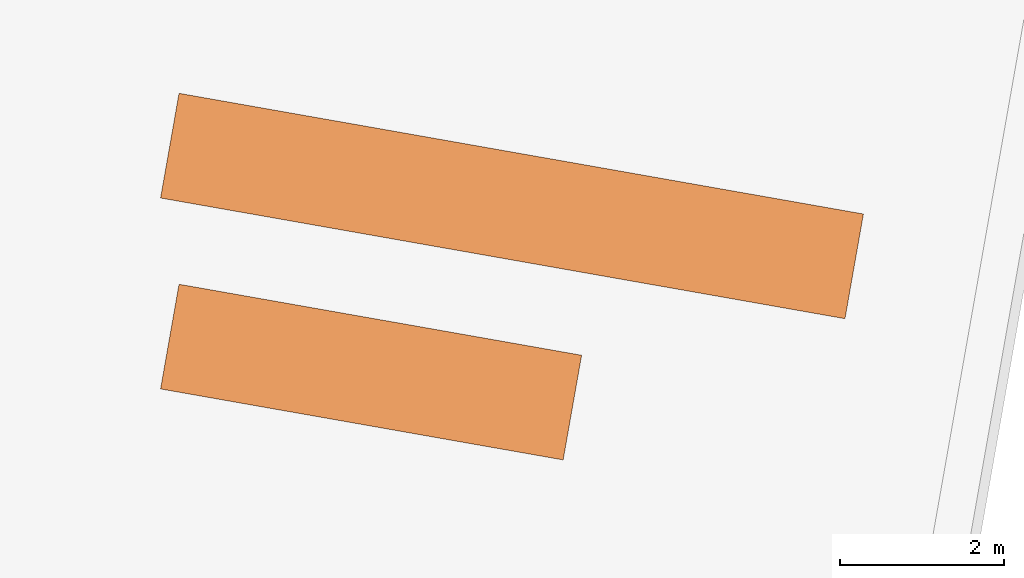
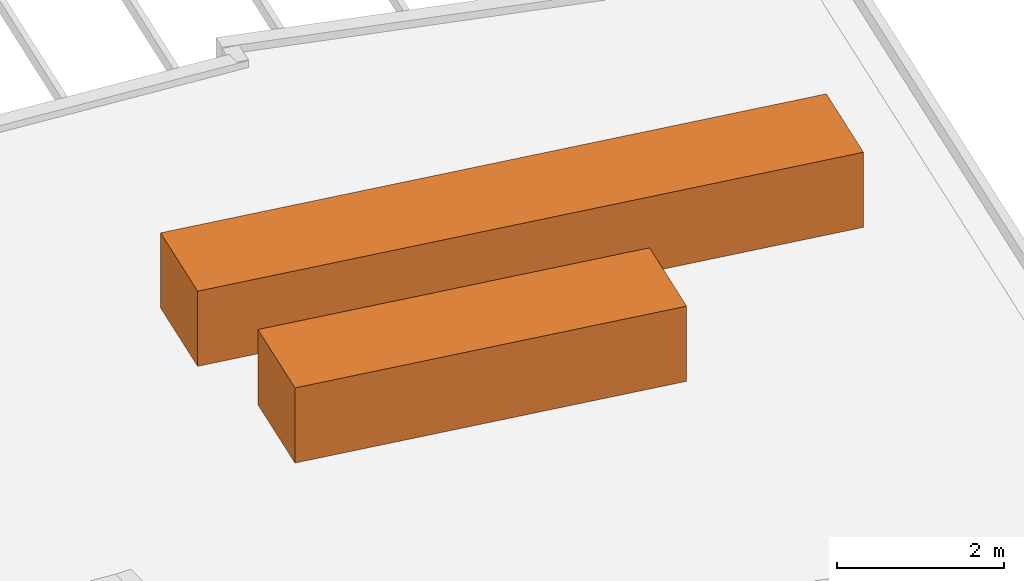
# One storey, part 3 of 3: 2 proxies.
"""IFC2X3 building model written with IfcOpenShell, lengths in millimetres."""

from ifc_helpers import new_model, entity, si_unit, converted_unit, derived_unit, direction, frame, frame_2d, origin, origin_2d_with_axis, place, context, subcontext, project, spatial, rectangle, extrude, source, transform, mapped, material, type_object, type_shapes, element, save


model = new_model("IFC2X3")

# Units and contexts
model_context = context("Model", 3, precision=0.01, world=origin(), true_north=direction((6.12303176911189e-17, 1.0)))
body_context = subcontext(model_context, "Body", "Model", "MODEL_VIEW")
ifc_project = project(units=[si_unit("LENGTHUNIT", "METRE", prefix="MILLI"), si_unit("AREAUNIT", "SQUARE_METRE"), si_unit("VOLUMEUNIT", "CUBIC_METRE"), converted_unit("PLANEANGLEUNIT", "DEGREE", entity("IfcRatioMeasure", 0.0174532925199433), si_unit("PLANEANGLEUNIT", "RADIAN"), dimensions=[0, 0, 0, 0, 0, 0, 0]), si_unit("MASSUNIT", "GRAM", prefix="KILO"), derived_unit("MASSDENSITYUNIT", [(si_unit("MASSUNIT", "GRAM", prefix="KILO"), 1), (si_unit("LENGTHUNIT", "METRE"), -3)]), derived_unit("MOMENTOFINERTIAUNIT", [(si_unit("LENGTHUNIT", "METRE"), 4)]), si_unit("TIMEUNIT", "SECOND"), si_unit("FREQUENCYUNIT", "HERTZ"), si_unit("THERMODYNAMICTEMPERATUREUNIT", "DEGREE_CELSIUS"), derived_unit("THERMALTRANSMITTANCEUNIT", [(si_unit("MASSUNIT", "GRAM", prefix="KILO"), 1), (si_unit("THERMODYNAMICTEMPERATUREUNIT", "KELVIN"), -1), (si_unit("TIMEUNIT", "SECOND"), -3)]), derived_unit("VOLUMETRICFLOWRATEUNIT", [(si_unit("LENGTHUNIT", "METRE"), 3), (si_unit("TIMEUNIT", "SECOND"), -1)]), si_unit("ELECTRICCURRENTUNIT", "AMPERE"), si_unit("ELECTRICVOLTAGEUNIT", "VOLT"), si_unit("POWERUNIT", "WATT"), si_unit("FORCEUNIT", "NEWTON", prefix="KILO"), si_unit("ILLUMINANCEUNIT", "LUX"), si_unit("LUMINOUSFLUXUNIT", "LUMEN"), si_unit("LUMINOUSINTENSITYUNIT", "CANDELA"), derived_unit("USERDEFINED", [(si_unit("MASSUNIT", "GRAM", prefix="KILO"), -1), (si_unit("LENGTHUNIT", "METRE"), -2), (si_unit("TIMEUNIT", "SECOND"), 3), (si_unit("LUMINOUSFLUXUNIT", "LUMEN"), 1)]), derived_unit("LINEARVELOCITYUNIT", [(si_unit("LENGTHUNIT", "METRE"), 1), (si_unit("TIMEUNIT", "SECOND"), -1)]), si_unit("PRESSUREUNIT", "PASCAL"), derived_unit("USERDEFINED", [(si_unit("LENGTHUNIT", "METRE"), -2), (si_unit("MASSUNIT", "GRAM", prefix="KILO"), 1), (si_unit("TIMEUNIT", "SECOND"), -2)]), derived_unit("LINEARFORCEUNIT", [(si_unit("MASSUNIT", "GRAM", prefix="KILO"), 1), (si_unit("LENGTHUNIT", "METRE"), 1), (si_unit("TIMEUNIT", "SECOND"), -2), (si_unit("LENGTHUNIT", "METRE"), -1)]), derived_unit("PLANARFORCEUNIT", [(si_unit("MASSUNIT", "GRAM", prefix="KILO"), 1), (si_unit("LENGTHUNIT", "METRE"), 1), (si_unit("TIMEUNIT", "SECOND"), -2), (si_unit("LENGTHUNIT", "METRE"), -2)])], contexts=[model_context])

# Site, building, storey
site_placement = place(None, origin())
site = spatial("IfcSite", under=ifc_project, at=site_placement, Name="<Kadaster Gemeente>;<Kadaster nummer>;<Kadaster sectie>", CompositionType="ELEMENT")
building_placement = place(site_placement, origin())
building = spatial("IfcBuilding", under=site, at=building_placement, Name="JRCZ Middelburg", CompositionType="ELEMENT")
storey_placement = place(building_placement, frame((0.0, 0.0, 6000.0)))
storey = spatial("IfcBuildingStorey", under=building, at=storey_placement, Name="03 dak", CompositionType="ELEMENT", Elevation=6000.0)

# Proxies
ifc_material = material(Name="Default wit")
building_element_proxy_type_1 = type_object("IfcBuildingElementProxyType", Name="lbk 3:lbk 1", PredefinedType="NOTDEFINED", material=ifc_material)
shared_shape_1 = source(origin(), body_context, "Body", "SweptSolid", [
    extrude(rectangle(XDim=5000.0, YDim=1300.0, at=frame_2d((-2.04636307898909e-12, -1.4210854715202e-12), x_axis=(1.0, 0.0))), frame((22785.5087885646, 11473.9861005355, 7000.0), z_axis=(0.0, 0.0, 1.0), x_axis=(0.984807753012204, -0.173648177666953, 0.0)), (0.0, 0.0, 1.0), 1100.0),
])
type_shapes(building_element_proxy_type_1, [shared_shape_1])
proxy_1_placement = place(storey_placement, frame((0.0, 0.0, -6000.0)))
element("IfcBuildingElementProxy", 1, at=proxy_1_placement, inside=storey, type_object=building_element_proxy_type_1, material=ifc_material, Name="lbk 3:lbk 1", ObjectType="lbk 3:lbk 1", context=body_context, shape_type="MappedRepresentation", body=[
    mapped(shared_shape_1, transform((0.0, 0.0, 0.0), scale=1.0)),
])
building_element_proxy_type_2 = type_object("IfcBuildingElementProxyType", Name="lbk 4:lbk 1", PredefinedType="NOTDEFINED", material=ifc_material)
shared_shape_2 = source(origin(), body_context, "Body", "SweptSolid", [
    extrude(rectangle(XDim=8500.0, YDim=1300.0, at=origin_2d_with_axis()), frame((24508.922356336, 13505.5829969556, 7000.0), z_axis=(0.0, 0.0, 1.0), x_axis=(0.984807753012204, -0.173648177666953, 0.0)), (0.0, 0.0, 1.0), 1100.0),
])
type_shapes(building_element_proxy_type_2, [shared_shape_2])
proxy_2_placement = place(storey_placement, frame((0.0, 0.0, -6000.0)))
element("IfcBuildingElementProxy", 2, at=proxy_2_placement, inside=storey, type_object=building_element_proxy_type_2, material=ifc_material, Name="lbk 4:lbk 1", ObjectType="lbk 4:lbk 1", context=body_context, shape_type="MappedRepresentation", body=[
    mapped(shared_shape_2, transform((0.0, 0.0, 0.0), scale=1.0)),
])

save(model, "model.ifc")
